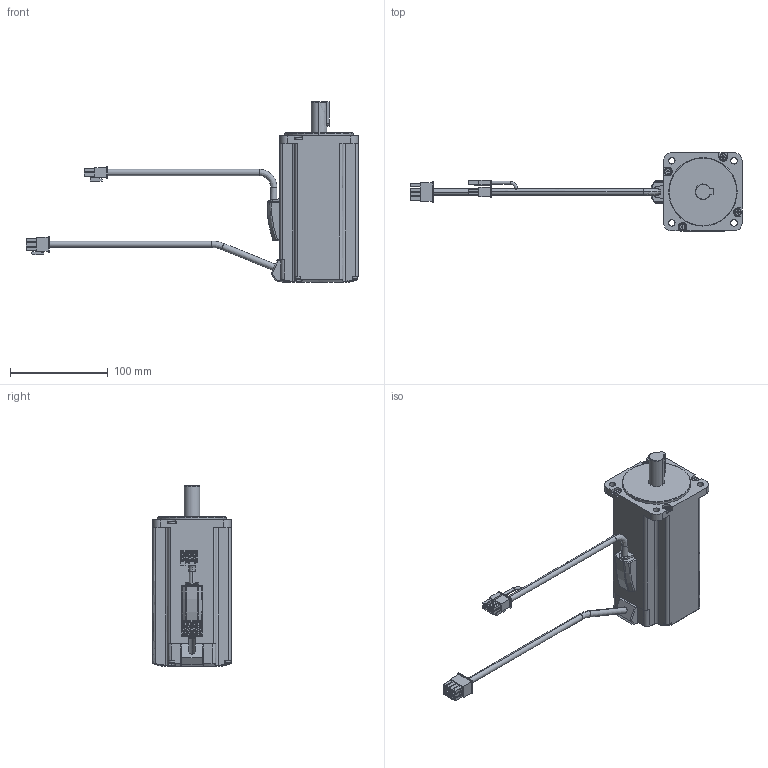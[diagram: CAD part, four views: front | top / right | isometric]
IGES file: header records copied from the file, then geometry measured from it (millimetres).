
Start section:  PTC IGES file: 10001039_rsmz-06ba_brake.igs
Global section: file name: 10001039_rsmz-06ba_brake.igs; native system: Pro/ENGINEER by Parametric Technology Corporation; preprocessor: 2004440; author: Administrator; organization: Unknown; date: 070829.201451; units: millimetre
Bounding box: 339.76 x 80 x 185 mm (x, y, z)
Volume: 868800 mm3; surface area: 79549.9 mm2
Topology: 1 solids, 1 shells, 531 faces, 1337 edges, 868 vertices
Faces by surface type: bspline 381, revolution 150
